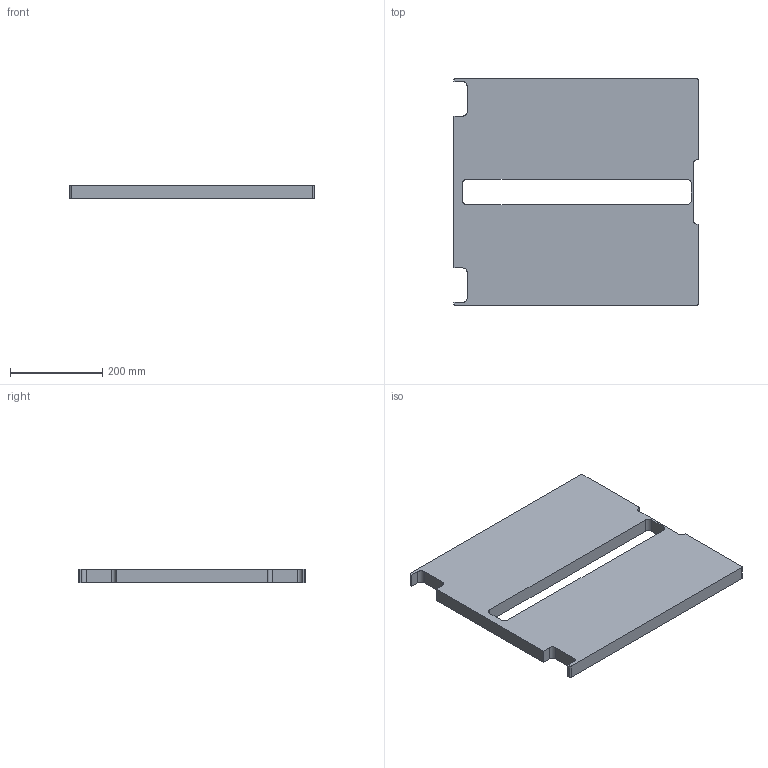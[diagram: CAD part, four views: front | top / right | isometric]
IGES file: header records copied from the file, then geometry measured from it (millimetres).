
Global section: file name: foam_8 v1; native system: unknown; preprocessor: unknown; author: unknown; organization: unknown; date: 20190213.105038; units: millimetre
Bounding box: 530.12 x 493.61 x 30 mm (x, y, z)
Volume: 6862863.2 mm3; surface area: 554720.4 mm2
Topology: 1 solids, 1 shells, 34 faces, 96 edges, 64 vertices
Faces by surface type: bspline 34
